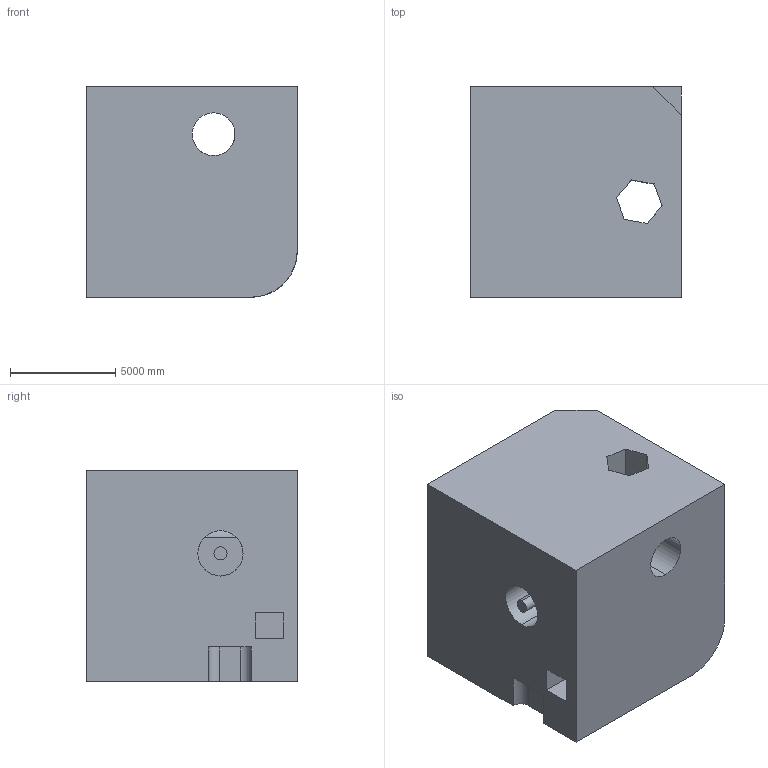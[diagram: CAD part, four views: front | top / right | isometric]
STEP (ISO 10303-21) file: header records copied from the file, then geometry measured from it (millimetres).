
FILE_DESCRIPTION (( 'STEP AP203' ), '1' );
FILE_NAME ('1805.STEP', '2022-08-19T13:03:10', ( 'user' ), ( '' ), 'SwSTEP 2.0', 'SolidWorks 2021', '' );
FILE_SCHEMA (( 'CONFIG_CONTROL_DESIGN' ));
Length unit declared in the file: centimetre
Products named in the file (1): 1805
Bounding box: 10000 x 10000 x 10000 mm (x, y, z)
Volume: 880046245085.6 mm3; surface area: 789726709.9 mm2
Topology: 1 solids, 1 shells, 45 faces, 129 edges, 86 vertices
Faces by surface type: plane 35, cylinder 10
Entity records: 1653 total; most frequent: CARTESIAN_POINT 389, ORIENTED_EDGE 258, DIRECTION 230, EDGE_CURVE 129, LINE 98, VECTOR 98, VERTEX_POINT 86, AXIS2_PLACEMENT_3D 66
